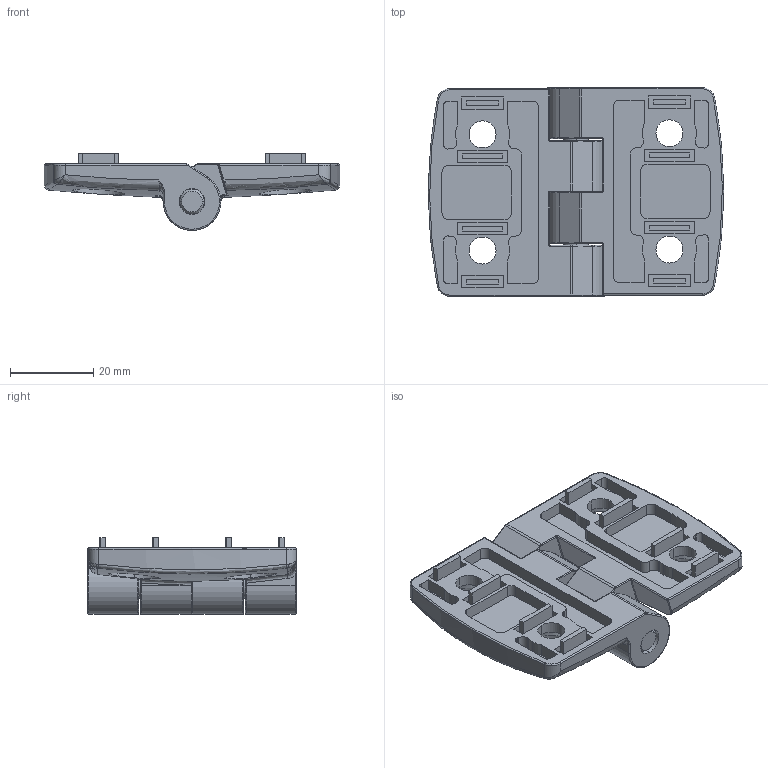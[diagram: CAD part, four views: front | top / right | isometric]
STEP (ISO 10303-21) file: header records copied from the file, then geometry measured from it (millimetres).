
FILE_DESCRIPTION (( 'STEP AP203' ), '1' );
FILE_NAME ('99900267_Scharnier Al 40x40 8-10.step', '2022-10-13T06:28:54', ( '' ), ( '' ), 'SwSTEP 2.0', 'SolidWorks 2021', '' );
FILE_SCHEMA (( 'CONFIG_CONTROL_DESIGN' ));
Length unit declared in the file: millimetre
Products named in the file (1): 99900267_Scharnier Al 40x40 8-10
Bounding box: 71.1 x 50.25 x 18.5 mm (x, y, z)
Volume: 22133.5 mm3; surface area: 14577.1 mm2
Topology: 3 solids, 3 shells, 390 faces, 961 edges, 602 vertices
Faces by surface type: plane 153, cylinder 137, bspline 88, cone 12
Entity records: 14722 total; most frequent: CARTESIAN_POINT 6024, ORIENTED_EDGE 1922, DIRECTION 1629, EDGE_CURVE 961, VERTEX_POINT 602, AXIS2_PLACEMENT_3D 561, LINE 507, VECTOR 507
